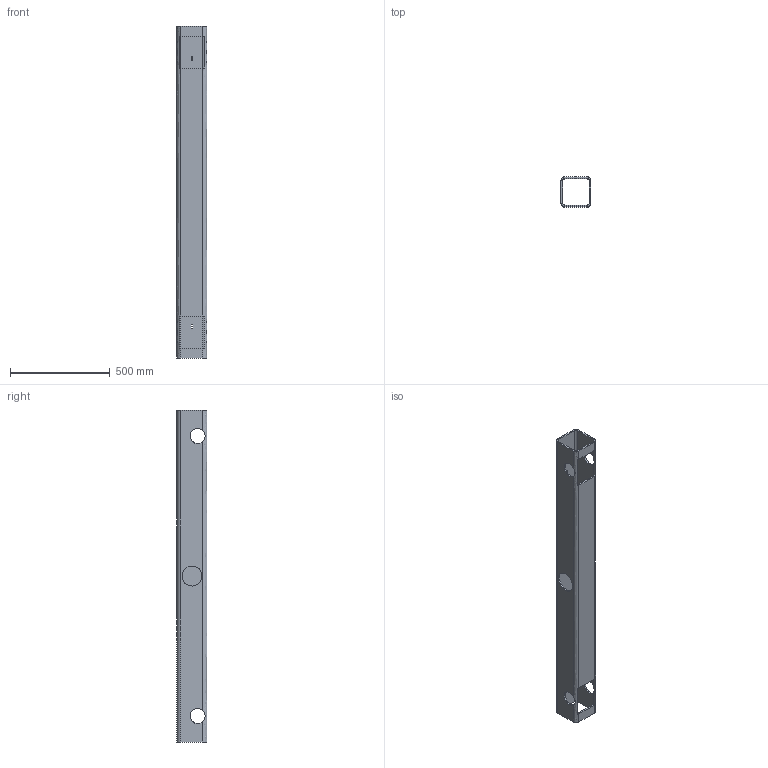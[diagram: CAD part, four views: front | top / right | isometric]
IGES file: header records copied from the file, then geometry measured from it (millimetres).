
Global section: file name: 4 1шт; native system: Autodesk Inventor 2025; preprocessor: unknown; author: Кочнев Д,,11,0,; organization: 20240509.000000; date: 20260427.152137; units: millimetre
Bounding box: 150 x 150 x 1660 mm (x, y, z)
Volume: 6645655.7 mm3; surface area: 1692060.5 mm2
Topology: 1 solids, 1 shells, 55 faces, 196 edges, 131 vertices
Faces by surface type: bspline 55
